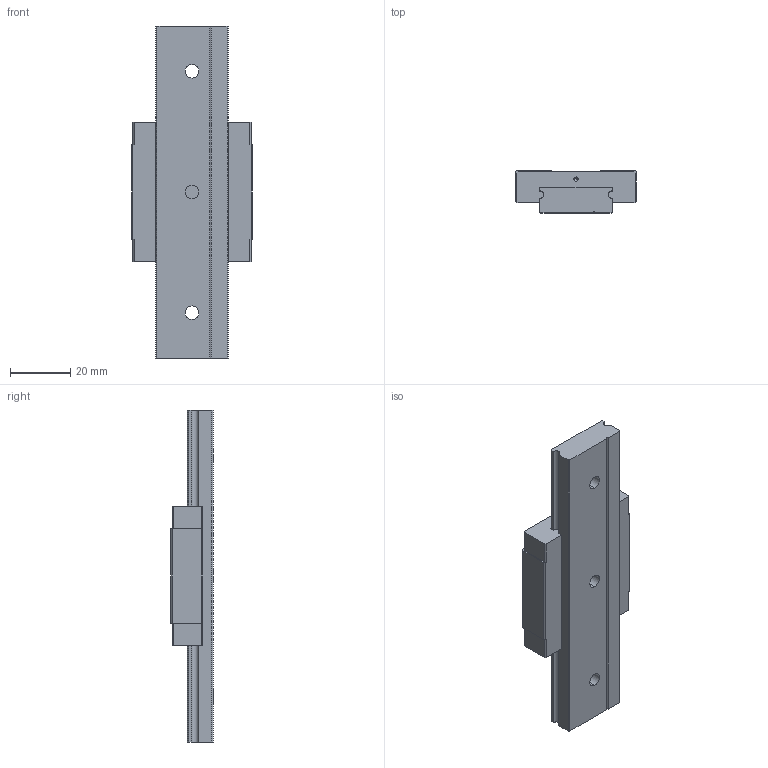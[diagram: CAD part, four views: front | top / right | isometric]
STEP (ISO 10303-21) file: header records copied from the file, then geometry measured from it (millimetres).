
FILE_DESCRIPTION((''),'2;1');
FILE_NAME('MGW12C_ASM','2008-07-11T',('minyao'),(''),'PRO/ENGINEER BY PARAMETRIC TECHNOLOGY CORPORATION, 2004360','PRO/ENGINEER BY PARAMETRIC TECHNOLOGY CORPORATION, 2004360','');
FILE_SCHEMA(('CONFIG_CONTROL_DESIGN'));
Length unit declared in the file: millimetre
Products named in the file (4): MANIFOLD_SOLID_BREP_39; MANIFOLD_SOLID_BREP_40; SAND94F7H92P_ASM; MGW12C_ASM
Assembly tree (3 placements, depth 3):
  MGW12C_ASM
    SAND94F7H92P_ASM
      MANIFOLD_SOLID_BREP_39
      MANIFOLD_SOLID_BREP_40
Bounding box: 40 x 14 x 110 mm (x, y, z)
Volume: 34476.2 mm3; surface area: 14220.1 mm2
Topology: 2 solids, 2 shells, 95 faces, 264 edges, 170 vertices
Faces by surface type: plane 53, cylinder 30, cone 12
Entity records: 3104 total; most frequent: DIRECTION 532, CARTESIAN_POINT 526, ORIENTED_EDGE 504, EDGE_CURVE 252, VECTOR 180, LINE 180, AXIS2_PLACEMENT_3D 176, VERTEX_POINT 170
